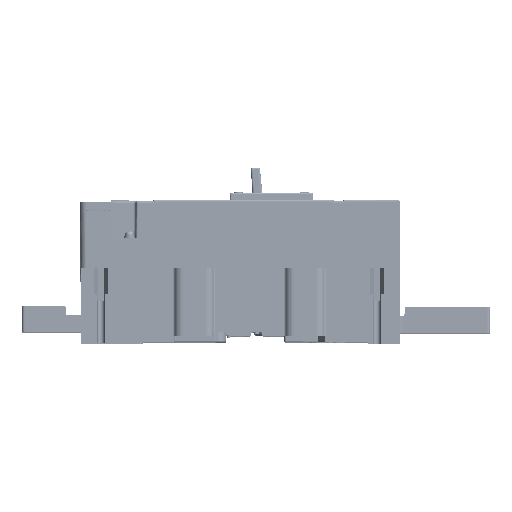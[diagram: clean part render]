
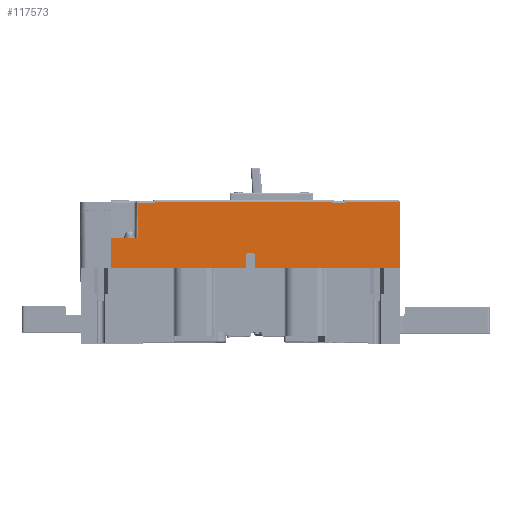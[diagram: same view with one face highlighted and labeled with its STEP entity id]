
A CAD part, top view. The second image highlights one B-rep face of the part: STEP entity #117573.
In plain terms, the highlighted planar face has unit normal (0, 0, 1).
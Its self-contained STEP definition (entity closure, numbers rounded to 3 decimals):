
#14731 = ORIENTED_EDGE ( 'NONE', *, *, #248920, .T. ) ;
#14743 = ORIENTED_EDGE ( 'NONE', *, *, #248931, .F. ) ;
#14755 = ORIENTED_EDGE ( 'NONE', *, *, #248943, .F. ) ;
#14768 = ORIENTED_EDGE ( 'NONE', *, *, #246626, .T. ) ;
#14781 = ORIENTED_EDGE ( 'NONE', *, *, #248953, .F. ) ;
#14792 = ORIENTED_EDGE ( 'NONE', *, *, #248965, .T. ) ;
#14802 = ORIENTED_EDGE ( 'NONE', *, *, #248976, .T. ) ;
#14814 = ORIENTED_EDGE ( 'NONE', *, *, #248987, .T. ) ;
#14826 = ORIENTED_EDGE ( 'NONE', *, *, #248999, .T. ) ;
#14838 = ORIENTED_EDGE ( 'NONE', *, *, #249010, .T. ) ;
#14850 = ORIENTED_EDGE ( 'NONE', *, *, #249022, .T. ) ;
#14862 = ORIENTED_EDGE ( 'NONE', *, *, #249033, .T. ) ;
#101110 = EDGE_LOOP ( 'NONE', ( #14731, #14743, #14755, #14768, #14781, #14792, #14802, #14814, #14826, #14838, #14850, #14862 ) ) ;
#117573 = ADVANCED_FACE ( 'NONE', ( #297647 ), #291418, .F. ) ;
#120068 = LINE ( 'NONE', #378169, #120079 ) ;
#120079 = VECTOR ( 'NONE', #378149, 1000. ) ;
#129283 = LINE ( 'NONE', #351318, #129294 ) ;
#129288 = LINE ( 'NONE', #351320, #129302 ) ;
#129294 = VECTOR ( 'NONE', #351325, 1000. ) ;
#129297 = LINE ( 'NONE', #351393, #129321 ) ;
#129302 = VECTOR ( 'NONE', #351334, 1000. ) ;
#129305 = LINE ( 'NONE', #351322, #129309 ) ;
#129307 = LINE ( 'NONE', #351362, #129315 ) ;
#129309 = VECTOR ( 'NONE', #351344, 1000. ) ;
#129315 = VECTOR ( 'NONE', #351367, 1000. ) ;
#129318 = LINE ( 'NONE', #351414, #129329 ) ;
#129321 = VECTOR ( 'NONE', #351391, 1000. ) ;
#129325 = LINE ( 'NONE', #351440, #129337 ) ;
#129329 = VECTOR ( 'NONE', #351426, 1000. ) ;
#129334 = LINE ( 'NONE', #351458, #129344 ) ;
#129337 = VECTOR ( 'NONE', #351434, 1000. ) ;
#129339 = LINE ( 'NONE', #351473, #129353 ) ;
#129340 = LINE ( 'NONE', #351494, #129359 ) ;
#129344 = VECTOR ( 'NONE', #351449, 1000. ) ;
#129353 = VECTOR ( 'NONE', #351476, 1000. ) ;
#129357 = LINE ( 'NONE', #351509, #129368 ) ;
#129359 = VECTOR ( 'NONE', #351491, 1000. ) ;
#129368 = VECTOR ( 'NONE', #351513, 1000. ) ;
#166614 = CARTESIAN_POINT ( 'NONE',  ( 158.187, 16.886, 284.319 ) ) ;
#166617 = CARTESIAN_POINT ( 'NONE',  ( -169.228, 16.886, 284.319 ) ) ;
#167329 = CARTESIAN_POINT ( 'NONE',  ( -138.527, 90.536, 284.319 ) ) ;
#167360 = CARTESIAN_POINT ( 'NONE',  ( -138.87, 51.236, 284.319 ) ) ;
#167417 = CARTESIAN_POINT ( 'NONE',  ( -169.228, 51.236, 284.319 ) ) ;
#167440 = CARTESIAN_POINT ( 'NONE',  ( 158.187, 91.736, 284.319 ) ) ;
#167452 = CARTESIAN_POINT ( 'NONE',  ( 95.837, 91.736, 284.319 ) ) ;
#167456 = CARTESIAN_POINT ( 'NONE',  ( 95.837, 90.536, 284.319 ) ) ;
#167460 = CARTESIAN_POINT ( 'NONE',  ( 81.462, 90.536, 284.319 ) ) ;
#167463 = CARTESIAN_POINT ( 'NONE',  ( 81.462, 91.736, 284.319 ) ) ;
#167467 = CARTESIAN_POINT ( 'NONE',  ( -119.228, 91.736, 284.319 ) ) ;
#167471 = CARTESIAN_POINT ( 'NONE',  ( -119.228, 90.536, 284.319 ) ) ;
#246626 = EDGE_CURVE ( 'NONE', #270001, #269998, #120068, .T. ) ;
#248920 = EDGE_CURVE ( 'NONE', #270785, #270808, #129283, .T. ) ;
#248931 = EDGE_CURVE ( 'NONE', #270861, #270808, #129288, .T. ) ;
#248943 = EDGE_CURVE ( 'NONE', #270001, #270861, #129305, .T. ) ;
#248953 = EDGE_CURVE ( 'NONE', #270880, #269998, #129307, .T. ) ;
#248965 = EDGE_CURVE ( 'NONE', #270880, #270890, #129297, .T. ) ;
#248976 = EDGE_CURVE ( 'NONE', #270890, #270892, #129318, .T. ) ;
#248987 = EDGE_CURVE ( 'NONE', #270892, #270897, #129325, .T. ) ;
#248999 = EDGE_CURVE ( 'NONE', #270897, #270901, #129334, .T. ) ;
#249010 = EDGE_CURVE ( 'NONE', #270901, #270903, #129339, .T. ) ;
#249022 = EDGE_CURVE ( 'NONE', #270903, #270906, #129340, .T. ) ;
#249033 = EDGE_CURVE ( 'NONE', #270906, #270785, #129357, .T. ) ;
#269998 = VERTEX_POINT ( 'NONE', #166614 ) ;
#270001 = VERTEX_POINT ( 'NONE', #166617 ) ;
#270785 = VERTEX_POINT ( 'NONE', #167329 ) ;
#270808 = VERTEX_POINT ( 'NONE', #167360 ) ;
#270861 = VERTEX_POINT ( 'NONE', #167417 ) ;
#270880 = VERTEX_POINT ( 'NONE', #167440 ) ;
#270890 = VERTEX_POINT ( 'NONE', #167452 ) ;
#270892 = VERTEX_POINT ( 'NONE', #167456 ) ;
#270897 = VERTEX_POINT ( 'NONE', #167460 ) ;
#270901 = VERTEX_POINT ( 'NONE', #167463 ) ;
#270903 = VERTEX_POINT ( 'NONE', #167467 ) ;
#270906 = VERTEX_POINT ( 'NONE', #167471 ) ;
#289141 = AXIS2_PLACEMENT_3D ( 'NONE', #291403, #291423, #291424 ) ;
#291403 = CARTESIAN_POINT ( 'NONE',  ( 156.487, 93.736, 284.319 ) ) ;
#291418 = PLANE ( 'NONE',  #289141 ) ;
#291423 = DIRECTION ( 'NONE',  ( 0., 0., -1. ) ) ;
#291424 = DIRECTION ( 'NONE',  ( -1., 0., 0. ) ) ;
#297647 = FACE_OUTER_BOUND ( 'NONE', #101110, .T. ) ;
#351318 = CARTESIAN_POINT ( 'NONE',  ( -138.477, 96.31, 284.319 ) ) ;
#351320 = CARTESIAN_POINT ( 'NONE',  ( -154.87, 51.236, 284.319 ) ) ;
#351322 = CARTESIAN_POINT ( 'NONE',  ( -169.228, 16.886, 284.319 ) ) ;
#351325 = DIRECTION ( 'NONE',  ( -0.009, -1., 0. ) ) ;
#351334 = DIRECTION ( 'NONE',  ( 1., 0., 0. ) ) ;
#351344 = DIRECTION ( 'NONE',  ( 0., 1., 0. ) ) ;
#351362 = CARTESIAN_POINT ( 'NONE',  ( 158.187, 93.736, 284.319 ) ) ;
#351367 = DIRECTION ( 'NONE',  ( 0., -1., 0. ) ) ;
#351391 = DIRECTION ( 'NONE',  ( -1., 0., 0. ) ) ;
#351393 = CARTESIAN_POINT ( 'NONE',  ( 93.837, 91.736, 284.319 ) ) ;
#351414 = CARTESIAN_POINT ( 'NONE',  ( 95.837, 93.736, 284.319 ) ) ;
#351426 = DIRECTION ( 'NONE',  ( 0., -1., 0. ) ) ;
#351434 = DIRECTION ( 'NONE',  ( -1., 0., 0. ) ) ;
#351440 = CARTESIAN_POINT ( 'NONE',  ( 156.487, 90.536, 284.319 ) ) ;
#351449 = DIRECTION ( 'NONE',  ( 0., 1., 0. ) ) ;
#351458 = CARTESIAN_POINT ( 'NONE',  ( 81.462, 93.736, 284.319 ) ) ;
#351473 = CARTESIAN_POINT ( 'NONE',  ( -121.228, 91.736, 284.319 ) ) ;
#351476 = DIRECTION ( 'NONE',  ( -1., 0., 0. ) ) ;
#351491 = DIRECTION ( 'NONE',  ( 0., -1., 0. ) ) ;
#351494 = CARTESIAN_POINT ( 'NONE',  ( -119.228, 93.736, 284.319 ) ) ;
#351509 = CARTESIAN_POINT ( 'NONE',  ( 156.487, 90.536, 284.319 ) ) ;
#351513 = DIRECTION ( 'NONE',  ( -1., 0., 0. ) ) ;
#378149 = DIRECTION ( 'NONE',  ( 1., 0., 0. ) ) ;
#378169 = CARTESIAN_POINT ( 'NONE',  ( 156.487, 16.886, 284.319 ) ) ;
